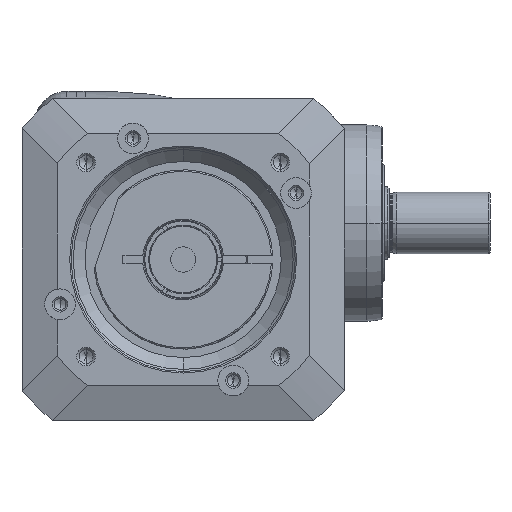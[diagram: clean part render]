
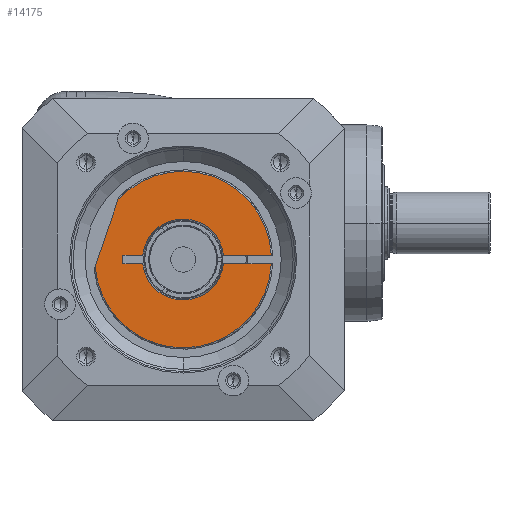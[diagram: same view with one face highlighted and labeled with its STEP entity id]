
A CAD part, front view. The second image highlights one B-rep face of the part: STEP entity #14175.
In plain terms, the highlighted planar face has unit normal (0, -1, 0) as drawn and (-1, 0, 0) by its records, which use the part's own axes.
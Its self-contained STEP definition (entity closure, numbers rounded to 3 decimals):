
#13612=DIRECTION('',(0.,0.946,0.326));
#13613=VECTOR('',#13612,25.063);
#13614=CARTESIAN_POINT('',(-13.,-21.258,23.246));
#13615=LINE('',#13614,#13613);
#13616=DIRECTION('',(0.,0.,1.));
#13617=VECTOR('',#13616,17.042);
#13618=CARTESIAN_POINT('',(-13.,-1.5,-31.464));
#13619=LINE('',#13618,#13617);
#13620=DIRECTION('',(0.,0.,1.));
#13621=VECTOR('',#13620,7.078);
#13622=CARTESIAN_POINT('',(-13.,-1.5,14.422));
#13623=LINE('',#13622,#13621);
#13624=DIRECTION('',(0.,-1.,0.));
#13625=VECTOR('',#13624,3.);
#13626=CARTESIAN_POINT('',(-13.,1.5,21.5));
#13627=LINE('',#13626,#13625);
#13628=DIRECTION('',(0.,0.,1.));
#13629=VECTOR('',#13628,7.078);
#13630=CARTESIAN_POINT('',(-13.,1.5,14.422));
#13631=LINE('',#13630,#13629);
#13632=DIRECTION('',(0.,0.,1.));
#13633=VECTOR('',#13632,17.042);
#13634=CARTESIAN_POINT('',(-13.,1.5,-31.464));
#13635=LINE('',#13634,#13633);
#13650=CARTESIAN_POINT('',(-13.,0.,0.));
#13651=DIRECTION('',(-1.,0.,0.));
#13652=DIRECTION('',(0.,0.077,0.997));
#13653=AXIS2_PLACEMENT_3D('',#13650,#13651,#13652);
#13696=CARTESIAN_POINT('',(-13.,0.,0.));
#13697=DIRECTION('',(-1.,0.,0.));
#13698=DIRECTION('',(0.,-0.048,-0.999));
#13699=AXIS2_PLACEMENT_3D('',#13696,#13697,#13698);
#13723=CARTESIAN_POINT('',(-13.,0.,0.));
#13724=DIRECTION('',(1.,0.,0.));
#13725=DIRECTION('',(0.,-0.103,0.995));
#13726=AXIS2_PLACEMENT_3D('',#13723,#13724,#13725);
#13735=CARTESIAN_POINT('',(-13.,0.,0.));
#13736=DIRECTION('',(1.,0.,0.));
#13737=DIRECTION('',(0.,0.103,-0.995));
#13738=AXIS2_PLACEMENT_3D('',#13735,#13736,#13737);
#14058=CARTESIAN_POINT('',(-13.,-1.5,-31.464));
#14059=CARTESIAN_POINT('',(-13.,-1.5,-14.422));
#14060=VERTEX_POINT('',#14058);
#14061=VERTEX_POINT('',#14059);
#14062=CARTESIAN_POINT('',(-13.,1.5,-31.464));
#14063=CARTESIAN_POINT('',(-13.,1.5,-14.422));
#14064=VERTEX_POINT('',#14062);
#14065=VERTEX_POINT('',#14063);
#14108=CARTESIAN_POINT('',(-13.,1.5,21.5));
#14109=CARTESIAN_POINT('',(-13.,-1.5,21.5));
#14110=VERTEX_POINT('',#14108);
#14111=VERTEX_POINT('',#14109);
#14112=CARTESIAN_POINT('',(-13.,-1.5,14.422));
#14113=VERTEX_POINT('',#14112);
#14114=CARTESIAN_POINT('',(-13.,1.5,14.422));
#14115=VERTEX_POINT('',#14114);
#14132=CARTESIAN_POINT('',(-13.,-21.258,23.246));
#14133=CARTESIAN_POINT('',(-13.,2.44,31.405));
#14134=VERTEX_POINT('',#14132);
#14135=VERTEX_POINT('',#14133);
#14148=CARTESIAN_POINT('',(-13.,0.,0.));
#14149=DIRECTION('',(1.,0.,0.));
#14150=DIRECTION('',(0.,-1.,0.));
#14151=AXIS2_PLACEMENT_3D('',#14148,#14149,#14150);
#14152=PLANE('',#14151);
#14154=ORIENTED_EDGE('',*,*,#14153,.F.);
#14156=ORIENTED_EDGE('',*,*,#14155,.F.);
#14158=ORIENTED_EDGE('',*,*,#14157,.T.);
#14160=ORIENTED_EDGE('',*,*,#14159,.F.);
#14162=ORIENTED_EDGE('',*,*,#14161,.T.);
#14164=ORIENTED_EDGE('',*,*,#14163,.F.);
#14166=ORIENTED_EDGE('',*,*,#14165,.F.);
#14168=ORIENTED_EDGE('',*,*,#14167,.F.);
#14170=ORIENTED_EDGE('',*,*,#14169,.F.);
#14172=ORIENTED_EDGE('',*,*,#14171,.F.);
#14173=EDGE_LOOP('',(#14154,#14156,#14158,#14160,#14162,#14164,#14166,#14168,
#14170,#14172));
#14174=FACE_OUTER_BOUND('',#14173,.F.);
#14175=ADVANCED_FACE('',(#14174),#14152,.F.);
#13654=CIRCLE('',#13653,31.5);
#13700=CIRCLE('',#13699,31.5);
#13727=CIRCLE('',#13726,14.5);
#13739=CIRCLE('',#13738,14.5);
#14153=EDGE_CURVE('',#14134,#14135,#13615,.T.);
#14155=EDGE_CURVE('',#14060,#14134,#13700,.T.);
#14157=EDGE_CURVE('',#14060,#14061,#13619,.T.);
#14159=EDGE_CURVE('',#14113,#14061,#13727,.T.);
#14161=EDGE_CURVE('',#14113,#14111,#13623,.T.);
#14163=EDGE_CURVE('',#14110,#14111,#13627,.T.);
#14165=EDGE_CURVE('',#14115,#14110,#13631,.T.);
#14167=EDGE_CURVE('',#14065,#14115,#13739,.T.);
#14169=EDGE_CURVE('',#14064,#14065,#13635,.T.);
#14171=EDGE_CURVE('',#14135,#14064,#13654,.T.);
